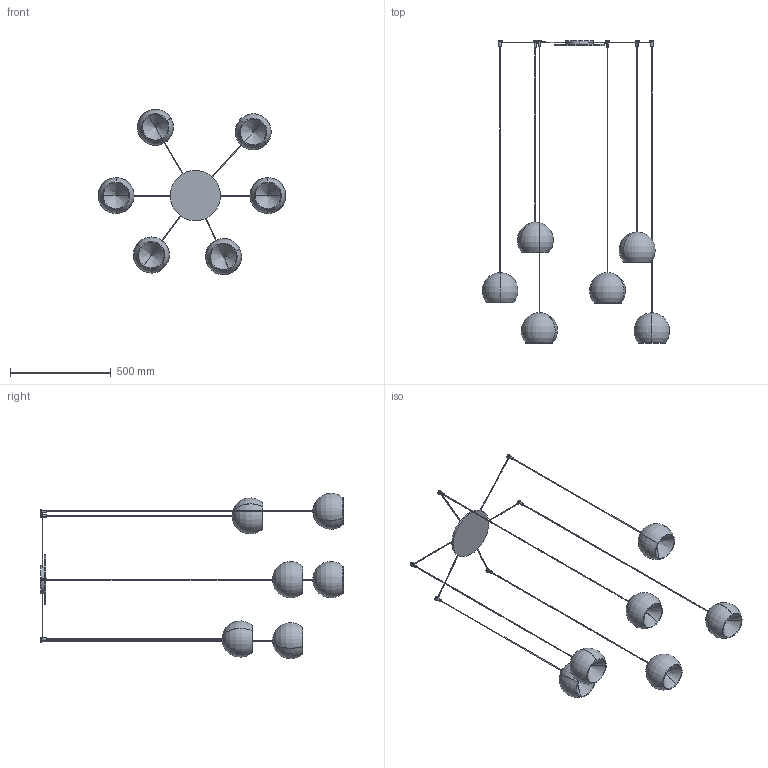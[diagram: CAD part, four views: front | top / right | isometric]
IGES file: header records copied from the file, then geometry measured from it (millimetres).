
Start section: SolidWorks IGES file using analytic representation for surfaces
Global section: file name: Y:\eforma\TECNICO\SOLIDWORKS\E-FORMA\09-LAMPADE\CHERRY\02 parts\CHR06-00-CHERRY_6 sospensione.IGS; native system: SolidWorks 2022; preprocessor: SolidWorks 2022; author: eforma.tech; date: 250506.081600; units: millimetre
Bounding box: 929.72 x 1500 x 820.68 mm (x, y, z)
Volume: 1948729.6 mm3; surface area: 1487979.2 mm2
Topology: 31 solids, 31 shells, 235 faces, 494 edges, 310 vertices
Faces by surface type: revolution 160, plane 75
